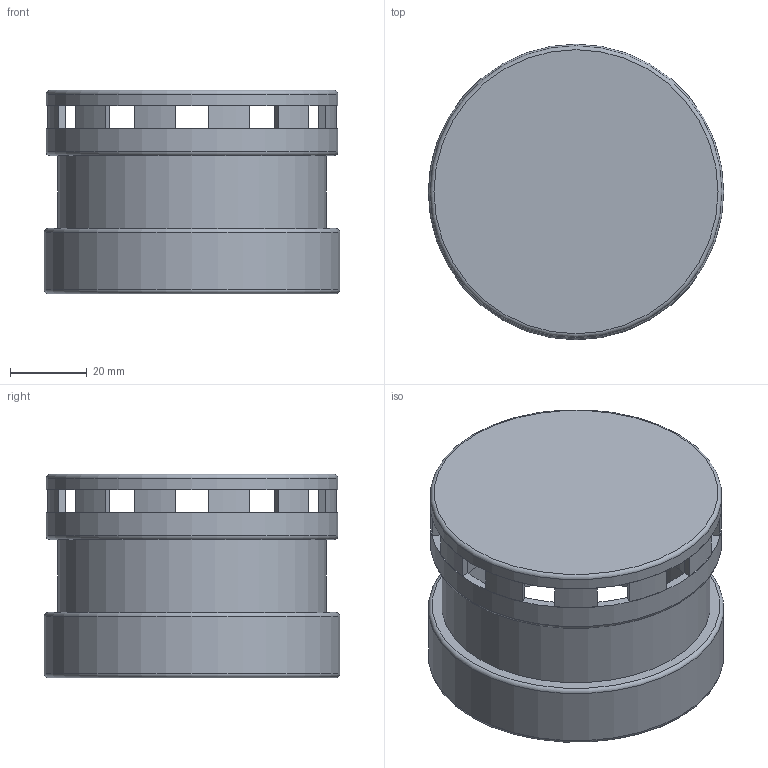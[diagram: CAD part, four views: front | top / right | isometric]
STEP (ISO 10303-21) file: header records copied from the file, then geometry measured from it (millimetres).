
FILE_DESCRIPTION(('STEP AP214'), '1');
FILE_NAME('Êðûøêà', '', ('UNSPECIFIED'), ('UNSPECIFIED'), 'C3D Converter', 'C3D Toolkit', '');
FILE_SCHEMA(('AUTOMOTIVE_DESIGN { 1 0 10303 214 3 1 1}'));
Length unit declared in the file: millimetre
Bounding box: 77 x 77 x 53 mm (x, y, z)
Volume: 38737 mm3; surface area: 34452.1 mm2
Topology: 1 solids, 1 shells, 58 faces, 179 edges, 118 vertices
Faces by surface type: plane 34, cylinder 20, torus 4
Full cylindrical faces by diameter (mm): 66 x1, 70 x2, 71.7 x1, 72 x1, 76 x2, 77 x1
Entity records: 2508 total; most frequent: DIRECTION 354, CARTESIAN_POINT 343, ORIENTED_EDGE 332, EDGE_CURVE 166, AXIS2_PLACEMENT_3D 129, VERTEX_POINT 118, LINE 96, VECTOR 96
